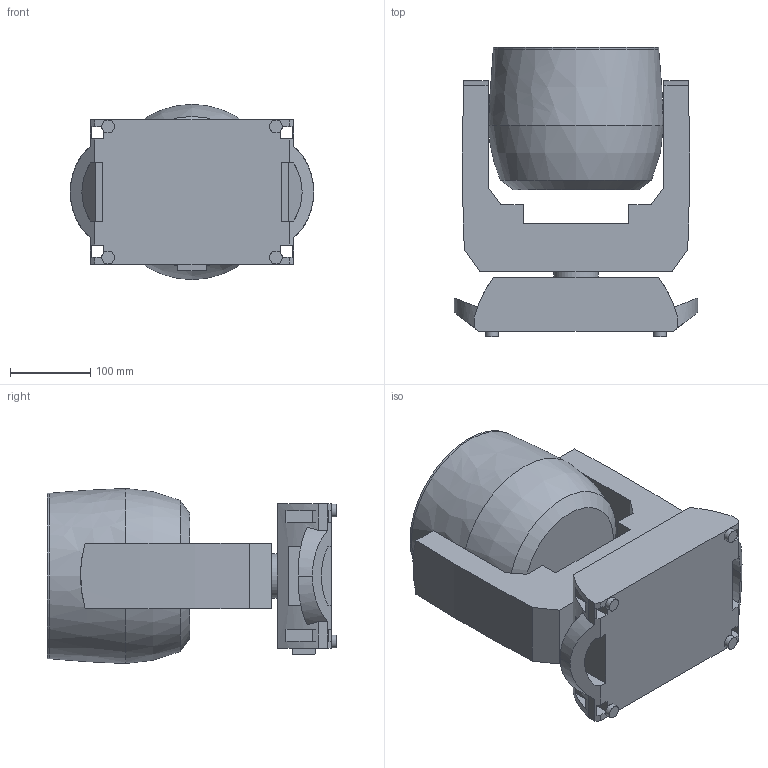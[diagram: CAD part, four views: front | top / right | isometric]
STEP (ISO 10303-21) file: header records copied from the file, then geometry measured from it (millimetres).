
FILE_DESCRIPTION(/* description */ (''),/* implementation_level */ '2;1');
FILE_NAME(/* name */ 'C:\Users\dgooch\Documents\!!CADENG\PRO\Rogue Outcast 2 Wash\Rogue Outcast 2X Wash_3D_CAD\Rogue Outcast 2X Wash_3D_0.stp',/* time_stamp */ '2022-06-14T17:27:39-04:00',/* author */ ('dgooch'),/* organization */ (''),/* preprocessor_version */ 'ST-DEVELOPER v19',/* originating_system */ 'Autodesk Inventor 2023',/* authorisation */ '');
FILE_SCHEMA (('AUTOMOTIVE_DESIGN { 1 0 10303 214 3 1 1 }'));
Length unit declared in the file: millimetre
Products named in the file (4): Rogue Outcast 2 Wash; Head; Arm; Base
Assembly tree (3 placements, depth 2):
  Rogue Outcast 2 Wash
    Head
    Arm
    Base
Bounding box: 302.56 x 360.5 x 218 mm (x, y, z)
Volume: 11259887.2 mm3; surface area: 511420 mm2
Topology: 3 solids, 3 shells, 99 faces, 271 edges, 177 vertices
Faces by surface type: plane 70, cylinder 26, bspline 2, cone 1
Full cylindrical faces by diameter (mm): 16 x4, 23.4 x4, 55.7 x2, 185 x1, 206 x1
Entity records: 3473 total; most frequent: CARTESIAN_POINT 739, ORIENTED_EDGE 542, DIRECTION 537, EDGE_CURVE 271, LINE 187, VECTOR 187, VERTEX_POINT 177, AXIS2_PLACEMENT_3D 175
